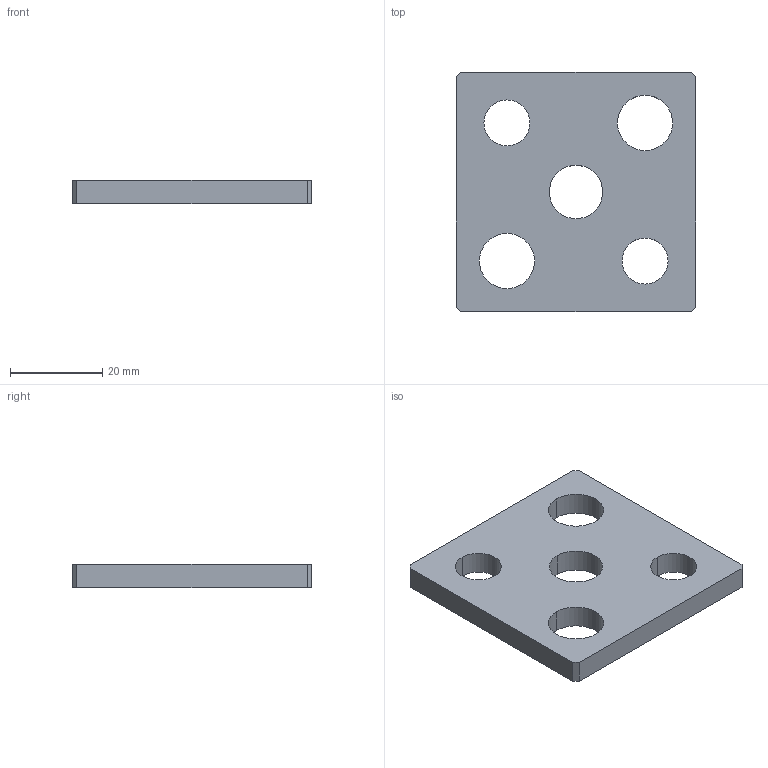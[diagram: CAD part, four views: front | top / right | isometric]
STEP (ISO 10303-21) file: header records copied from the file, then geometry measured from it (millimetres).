
FILE_DESCRIPTION(/* description */ (''),/* implementation_level */ '2;1');
FILE_NAME(/* name */ '3d_mdsp16_04298_r00.stp',/* time_stamp */ '2011-01-10T14:13:54+09:00',/* author */ ('MISUMI'),/* organization */ (''),/* preprocessor_version */ 'ST-DEVELOPER v11',/* originating_system */ 'UGS - NX 5.0',/* authorisation */ '');
FILE_SCHEMA (('CONFIG_CONTROL_DESIGN'));
Length unit declared in the file: millimetre
Products named in the file (1): 3d_mdsp16_04298_r00
Bounding box: 52 x 52 x 5 mm (x, y, z)
Volume: 11065.2 mm3; surface area: 6327.7 mm2
Topology: 1 solids, 1 shells, 20 faces, 54 edges, 36 vertices
Faces by surface type: plane 10, cylinder 10
Entity records: 744 total; most frequent: DIRECTION 116, CARTESIAN_POINT 111, ORIENTED_EDGE 108, EDGE_CURVE 54, AXIS2_PLACEMENT_3D 41, VERTEX_POINT 36, LINE 34, VECTOR 34
